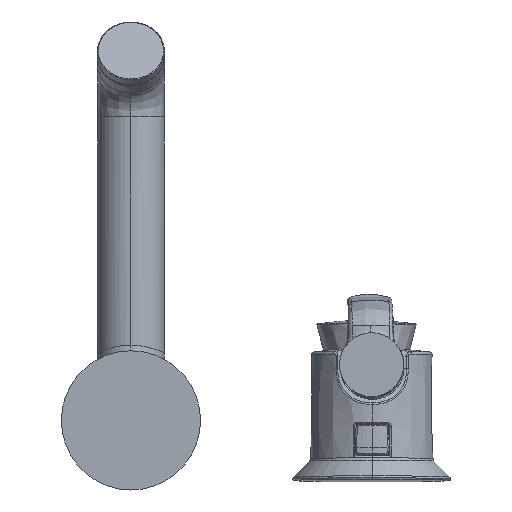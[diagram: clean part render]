
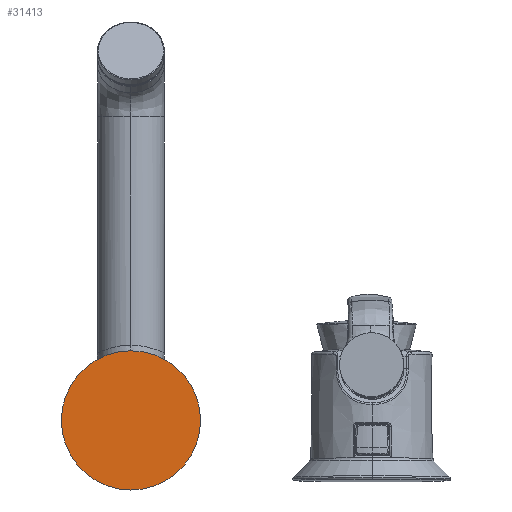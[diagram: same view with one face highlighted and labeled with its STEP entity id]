
A CAD part, front view. The second image highlights one B-rep face of the part: STEP entity #31413.
In plain terms, the highlighted planar face has unit normal (0, -1, 0).
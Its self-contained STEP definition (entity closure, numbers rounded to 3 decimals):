
#236 = DIRECTION ( 'NONE',  ( 0., 1., 0. ) ) ;
#949 = DIRECTION ( 'NONE',  ( 1., 0., 0. ) ) ;
#2905 = EDGE_LOOP ( 'NONE', ( #20679, #6665 ) ) ;
#5638 = AXIS2_PLACEMENT_3D ( 'NONE', #10139, #10365, #27440 ) ;
#6665 = ORIENTED_EDGE ( 'NONE', *, *, #20580, .F. ) ;
#9833 = DIRECTION ( 'NONE',  ( 1., 0., 0. ) ) ;
#10139 = CARTESIAN_POINT ( 'NONE',  ( 0., -5., 0. ) ) ;
#10365 = DIRECTION ( 'NONE',  ( 0., 1., 0. ) ) ;
#10793 = CARTESIAN_POINT ( 'NONE',  ( 0., -5., 0. ) ) ;
#11846 = AXIS2_PLACEMENT_3D ( 'NONE', #17620, #236, #9833 ) ;
#12514 = CIRCLE ( 'NONE', #11846, 25. ) ;
#13126 = AXIS2_PLACEMENT_3D ( 'NONE', #10793, #27952, #949 ) ;
#17620 = CARTESIAN_POINT ( 'NONE',  ( 0., -5., 0. ) ) ;
#20580 = EDGE_CURVE ( 'NONE', #31576, #30060, #12514, .T. ) ;
#20679 = ORIENTED_EDGE ( 'NONE', *, *, #31153, .F. ) ;
#23126 = CARTESIAN_POINT ( 'NONE',  ( 25., -5., 0. ) ) ;
#25174 = PLANE ( 'NONE',  #13126 ) ;
#26541 = CIRCLE ( 'NONE', #5638, 25. ) ;
#27440 = DIRECTION ( 'NONE',  ( 1., 0., 0. ) ) ;
#27952 = DIRECTION ( 'NONE',  ( 0., 1., 0. ) ) ;
#28616 = CARTESIAN_POINT ( 'NONE',  ( -25., -5., 0. ) ) ;
#30042 = FACE_OUTER_BOUND ( 'NONE', #2905, .T. ) ;
#30060 = VERTEX_POINT ( 'NONE', #28616 ) ;
#31153 = EDGE_CURVE ( 'NONE', #30060, #31576, #26541, .T. ) ;
#31413 = ADVANCED_FACE ( 'NONE', ( #30042 ), #25174, .F. ) ;
#31576 = VERTEX_POINT ( 'NONE', #23126 ) ;
